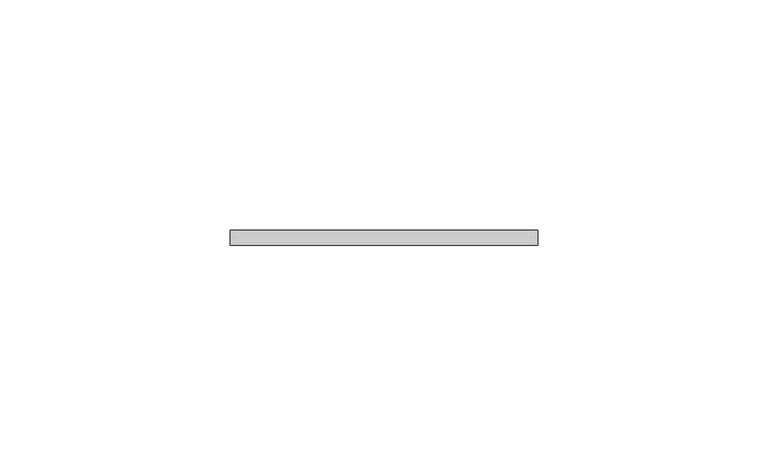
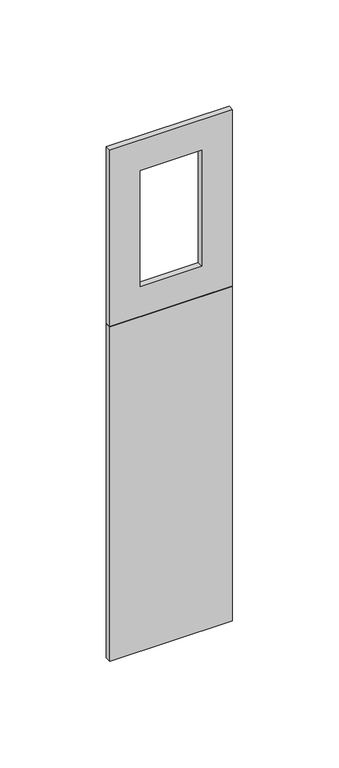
"""IFC4 building model written with IfcOpenShell, lengths in millimetres: proxy geometry, Accessory-Wiremold-Receptacle_Cover : 30TP-L."""

import ifcopenshell
import ifcopenshell.guid

model = None  # the IFC model being written
_history = None  # IfcOwnerHistory: only IFC2X3 demands one
_inside = {}  # id of a spatial element -> (the spatial element, [elements in it])
_under = {}  # id of a project, library or spatial element -> (it, [spatial elements below it])
_declared = {}  # id of a project -> (the project, [libraries it declares])
_typed = {}  # id of a type object -> (the type object, [elements of that type])
_made_of = {}  # id of a material, layer set ... -> (it, [elements and type objects made of it])


def new_model(schema):
    """Start an empty IFC model of exactly this schema.

    Asked for "IFC4X3", IfcOpenShell would pick the latest addendum, in which some entities
    have other attributes; the version numbers below select the first issue.
    IFC2X3 requires an IfcOwnerHistory on every rooted entity: one is made here for all.
    """
    global model, _history
    if schema == "IFC4X3":
        model = ifcopenshell.file(schema_version=(4, 3, 0, 0))
    else:
        model = ifcopenshell.file(schema=schema)
    _inside.clear()
    _under.clear()
    _declared.clear()
    _typed.clear()
    _made_of.clear()
    _history = None
    if model.schema == "IFC2X3":
        org = make("IfcOrganization", Name="unknown")
        user = make(
            "IfcPersonAndOrganization",
            ThePerson=make("IfcPerson", FamilyName="unknown"),
            TheOrganization=org,
        )
        app = make(
            "IfcApplication",
            ApplicationDeveloper=org,
            Version="unknown",
            ApplicationFullName="unknown",
            ApplicationIdentifier="unknown",
        )
        _history = make(
            "IfcOwnerHistory",
            OwningUser=user,
            OwningApplication=app,
            ChangeAction="ADDED",
            CreationDate=0,
        )
    return model


def make(cls, **values):
    """One entity of the class cls with the attributes given. An attribute that is None is left unset."""
    return model.create_entity(
        cls, **{name: value for name, value in values.items() if value is not None}
    )


def rooted(cls, **values):
    """An entity with a GlobalId (a new one), such as an element, a storey or a relation."""
    return make(cls, GlobalId=ifcopenshell.guid.new(), OwnerHistory=_history, **values)


def si_unit(unit_type, name, prefix=None):
    """IfcSIUnit, for example si_unit("LENGTHUNIT", "METRE", prefix="MILLI")."""
    return make("IfcSIUnit", UnitType=unit_type, Prefix=prefix, Name=name)


def assignment(units):
    """IfcUnitAssignment: the units of a project."""
    return None if units is None else make("IfcUnitAssignment", Units=units)


def point(xyz):
    """IfcCartesianPoint."""
    return None if xyz is None else make("IfcCartesianPoint", Coordinates=xyz)


def direction(xyz):
    """IfcDirection."""
    return None if xyz is None else make("IfcDirection", DirectionRatios=xyz)


def frame(location, z_axis=None, x_axis=None):
    """IfcAxis2Placement3D, a coordinate frame: its origin and axes. An axis left out is left unset."""
    return make(
        "IfcAxis2Placement3D",
        Location=point(location),
        Axis=direction(z_axis),
        RefDirection=direction(x_axis),
    )


def origin():
    """The frame at (0, 0, 0) with its axes left unset."""
    return frame((0.0, 0.0, 0.0))


def place(relative_to, where):
    """IfcLocalPlacement: puts the frame where relative to a parent placement (None: the world)."""
    return make(
        "IfcLocalPlacement", PlacementRelTo=relative_to, RelativePlacement=where
    )


def context(
    kind, dimensions, precision=None, world=None, true_north=None, identifier=None
):
    """IfcGeometricRepresentationContext, for example the 3D "Model" context."""
    return make(
        "IfcGeometricRepresentationContext",
        ContextIdentifier=identifier,
        ContextType=kind,
        CoordinateSpaceDimension=dimensions,
        Precision=precision,
        WorldCoordinateSystem=world,
        TrueNorth=true_north,
    )


def project(units=None, contexts=None):
    """IfcProject with its units and contexts."""
    return rooted(
        "IfcProject",
        Name="project",
        RepresentationContexts=contexts,
        UnitsInContext=assignment(units),
    )


def spatial(cls, under=None, at=None, **own):
    """A site, building, storey or space (cls), placed at a placement, below another one or the project."""
    s = rooted(cls, ObjectPlacement=at, **own)
    if under is not None:
        _under.setdefault(under.id(), (under, []))[1].append(s)
    return s


def polyline(points):
    """IfcPolyline through the points."""
    return make("IfcPolyline", Points=[point(p) for p in points])


def outline(outer, holes=None, kind="AREA"):
    """IfcArbitraryClosedProfileDef: a profile drawn as a closed curve; with holes, ...WithVoids."""
    if holes is None:
        return make("IfcArbitraryClosedProfileDef", ProfileType=kind, OuterCurve=outer)
    return make(
        "IfcArbitraryProfileDefWithVoids",
        ProfileType=kind,
        OuterCurve=outer,
        InnerCurves=holes,
    )


def extrude(swept, where, along, depth):
    """IfcExtrudedAreaSolid: the profile swept, set in the frame where, extruded along a direction by depth."""
    return make(
        "IfcExtrudedAreaSolid",
        SweptArea=swept,
        Position=where,
        ExtrudedDirection=direction(along),
        Depth=depth,
    )


def shape(context_of_items, identifier, shape_type, items):
    """IfcShapeRepresentation: the items that make up one representation, for example the "Body"."""
    return make(
        "IfcShapeRepresentation",
        ContextOfItems=context_of_items,
        RepresentationIdentifier=identifier,
        RepresentationType=shape_type,
        Items=items,
    )


def source(mapping_origin, context_of_items, identifier, shape_type, items):
    """IfcRepresentationMap: a shape defined once, which mapped items show again and again."""
    return make(
        "IfcRepresentationMap",
        MappingOrigin=mapping_origin,
        MappedRepresentation=shape(context_of_items, identifier, shape_type, items),
    )


def transform(
    local_origin,
    x_axis=None,
    y_axis=None,
    z_axis=None,
    scale=None,
    scale2=None,
    scale3=None,
    uniform=True,
):
    """IfcCartesianTransformationOperator3D, or its non-uniform kind. x_axis, y_axis, z_axis: its Axis1, 2, 3."""
    if uniform:
        return make(
            "IfcCartesianTransformationOperator3D",
            Axis1=direction(x_axis),
            Axis2=direction(y_axis),
            LocalOrigin=point(local_origin),
            Scale=scale,
            Axis3=direction(z_axis),
        )
    return make(
        "IfcCartesianTransformationOperator3DnonUniform",
        Axis1=direction(x_axis),
        Axis2=direction(y_axis),
        LocalOrigin=point(local_origin),
        Scale=scale,
        Axis3=direction(z_axis),
        Scale2=scale2,
        Scale3=scale3,
    )


def mapped(mapping_source, mapping_target):
    """IfcMappedItem: shows the shape of a source again, moved by a transform."""
    return make(
        "IfcMappedItem", MappingSource=mapping_source, MappingTarget=mapping_target
    )


def made_of(thing, what):
    """Note that an element or type object is made of a material, layer set ...; save() writes the relation."""
    if what is not None:
        _made_of.setdefault(what.id(), (what, []))[1].append(thing)
    return thing


def element(
    cls,
    number,
    at=None,
    inside=None,
    cuts=None,
    type_object=None,
    material=None,
    context=None,
    identifier="Body",
    shape_type=None,
    held_by="IfcProductDefinitionShape",
    body=None,
    shapes=None,
    **own,
):
    """One element of the class cls, such as IfcWall. Its Tag is "e" and its number.

    at: its placement. inside: the storey or other place that contains it. cuts: it is an
    opening in that element (IfcRelVoidsElement). A single representation is given by context,
    identifier, shape_type and body (its items); several are given by shapes. held_by: the class
    of the entity that holds the representations. save() writes the other relations.
    """
    e = rooted(cls, Tag="e%d" % number, ObjectPlacement=at, **own)
    if body is not None:
        shapes = [shape(context, identifier, shape_type, body)]
    if shapes is not None:
        e.Representation = make(held_by, Representations=shapes)
    if inside is not None:
        _inside.setdefault(inside.id(), (inside, []))[1].append(e)
    if cuts is not None:
        rooted(
            "IfcRelVoidsElement", RelatingBuildingElement=cuts, RelatedOpeningElement=e
        )
    if type_object is not None:
        _typed.setdefault(type_object.id(), (type_object, []))[1].append(e)
    return made_of(e, material)


def aggregate(whole, parts):
    """IfcRelAggregates: a whole, such as a stair, and the parts it consists of."""
    return rooted("IfcRelAggregates", RelatingObject=whole, RelatedObjects=parts)


def save(model, path):
    """Write the relations noted so far, then the file.

    IfcRelAggregates (storeys below a building ...), IfcRelContainedInSpatialStructure (elements
    in a storey), IfcRelDefinesByType, IfcRelAssociatesMaterial and IfcRelDeclares: one each for
    every whole, place, type object, material and project.
    """
    for whole, parts in _under.values():
        aggregate(whole, parts)
    for where, things in _inside.values():
        rooted(
            "IfcRelContainedInSpatialStructure",
            RelatedElements=things,
            RelatingStructure=where,
        )
    for kind, things in _typed.values():
        rooted("IfcRelDefinesByType", RelatedObjects=things, RelatingType=kind)
    for what, things in _made_of.values():
        rooted("IfcRelAssociatesMaterial", RelatedObjects=things, RelatingMaterial=what)
    for by, libraries in _declared.values():
        rooted("IfcRelDeclares", RelatingContext=by, RelatedDefinitions=libraries)
    model.write(path)


def electrical_fixtures_a7cb0436(model_context):
    return source(origin(), model_context, "Body", "SweptSolid", [
        extrude(outline(polyline([(33.3375, -1.5875), (-33.3375, -1.5875), (-33.3375, 1.5875), (33.3375, 1.5875), (33.3375, -1.5875)])), frame((0.0, 0.0, 25.4), z_axis=(0.0, 0.0, 1.0), x_axis=(1.0, 0.0, 0.0)), (0.0, 0.0, 1.0), 192.0875),
        extrude(outline(polyline([(319.0875, 33.3375), (319.0875, -33.3375), (217.4875, -33.3375), (217.4875, 33.3375), (319.0875, 33.3375)]), holes=[polyline([(301.625, 16.66875), (234.95, 16.66875), (234.95, -16.66875), (301.625, -16.66875), (301.625, 16.66875)])]), frame((0.0, -1.5875, 0.0), z_axis=(0.0, 1.0, 0.0), x_axis=(0.0, 0.0, 1.0)), (0.0, 0.0, 1.0), 3.175),
    ])


if __name__ == "__main__":
    model = new_model("IFC4")
    model_context = context("Model", 3, world=origin())
    ifc_project = project(units=[si_unit("LENGTHUNIT", "METRE", prefix="MILLI")], contexts=[model_context])
    site = spatial("IfcSite", under=ifc_project)
    building = spatial("IfcBuilding", under=site)
    placement = place(None, origin())
    electrical_fixtures_shape = electrical_fixtures_a7cb0436(model_context)
    element("IfcBuildingElementProxy", 1, Name="Accessory-Wiremold-Receptacle_Cover : 30TP-L", ObjectType="Accessory-Wiremold-Receptacle_Cover : 30TP-L", at=placement, inside=building, context=model_context, shape_type="MappedRepresentation", body=[
        mapped(electrical_fixtures_shape, transform((0.0, 0.0, 0.0), x_axis=(1.0, 0.0, 0.0), y_axis=(0.0, 1.0, 0.0), z_axis=(0.0, 0.0, 1.0))),
    ])
    save(model, "model.ifc")
